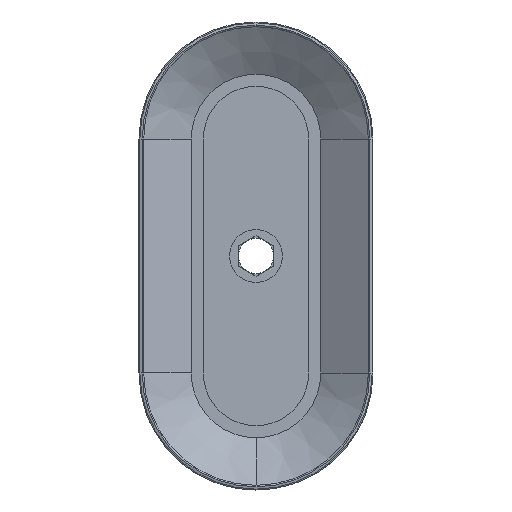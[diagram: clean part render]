
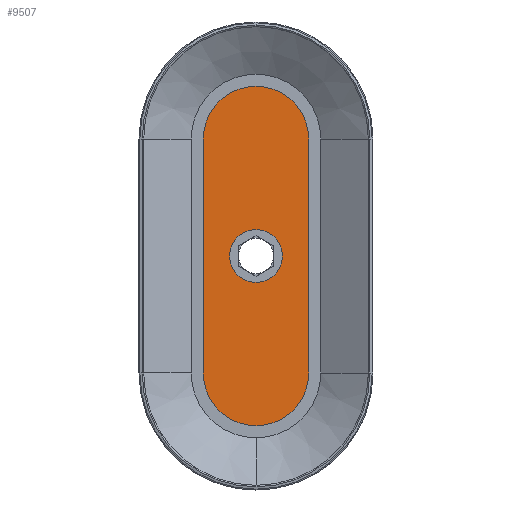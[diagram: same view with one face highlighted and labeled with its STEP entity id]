
A CAD part, front view. The second image highlights one B-rep face of the part: STEP entity #9507.
In plain terms, the highlighted planar face has unit normal (0, -1, 0).
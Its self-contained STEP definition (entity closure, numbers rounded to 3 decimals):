
#45 = CARTESIAN_POINT ( 'NONE',  ( 0., 9., 20. ) ) ;
#212 = DIRECTION ( 'NONE',  ( 0., 1., 0. ) ) ;
#294 = EDGE_CURVE ( 'NONE', #9392, #11352, #6033, .T. ) ;
#431 = CARTESIAN_POINT ( 'NONE',  ( 0., 9., 0. ) ) ;
#575 = AXIS2_PLACEMENT_3D ( 'NONE', #431, #2366, #9141 ) ;
#756 = VERTEX_POINT ( 'NONE', #5009 ) ;
#871 = ORIENTED_EDGE ( 'NONE', *, *, #5842, .T. ) ;
#948 = DIRECTION ( 'NONE',  ( 0., 1., 0. ) ) ;
#1021 = CARTESIAN_POINT ( 'NONE',  ( 4.5, 9., 0. ) ) ;
#1313 = CARTESIAN_POINT ( 'NONE',  ( -9., 9., 20. ) ) ;
#1826 = DIRECTION ( 'NONE',  ( 0., 0., -1. ) ) ;
#1878 = CARTESIAN_POINT ( 'NONE',  ( -9., 9., 20. ) ) ;
#2037 = DIRECTION ( 'NONE',  ( 0., 0., 1. ) ) ;
#2126 = ORIENTED_EDGE ( 'NONE', *, *, #3628, .F. ) ;
#2139 = CIRCLE ( 'NONE', #11871, 4.5 ) ;
#2366 = DIRECTION ( 'NONE',  ( 0., 1., 0. ) ) ;
#2519 = EDGE_CURVE ( 'NONE', #3699, #8704, #8615, .T. ) ;
#2700 = DIRECTION ( 'NONE',  ( 1., 0., 0. ) ) ;
#3628 = EDGE_CURVE ( 'NONE', #4861, #3699, #12464, .T. ) ;
#3689 = CARTESIAN_POINT ( 'NONE',  ( -0.05, 9., 20. ) ) ;
#3699 = VERTEX_POINT ( 'NONE', #1313 ) ;
#3883 = DIRECTION ( 'NONE',  ( 0., 1., 0. ) ) ;
#3900 = DIRECTION ( 'NONE',  ( 0., 1., 0. ) ) ;
#4074 = DIRECTION ( 'NONE',  ( 0., 0., 1. ) ) ;
#4424 = AXIS2_PLACEMENT_3D ( 'NONE', #45, #3900, #10741 ) ;
#4557 = CIRCLE ( 'NONE', #11672, 9. ) ;
#4861 = VERTEX_POINT ( 'NONE', #9486 ) ;
#5009 = CARTESIAN_POINT ( 'NONE',  ( 9., 9., 20. ) ) ;
#5232 = VECTOR ( 'NONE', #1826, 1000. ) ;
#5235 = ORIENTED_EDGE ( 'NONE', *, *, #6676, .F. ) ;
#5408 = PLANE ( 'NONE',  #11554 ) ;
#5538 = CARTESIAN_POINT ( 'NONE',  ( -4.5, 9., 0. ) ) ;
#5765 = CARTESIAN_POINT ( 'NONE',  ( 0., 9., 0. ) ) ;
#5842 = EDGE_CURVE ( 'NONE', #11352, #9392, #2139, .T. ) ;
#6033 = CIRCLE ( 'NONE', #575, 4.5 ) ;
#6578 = EDGE_LOOP ( 'NONE', ( #871, #7074 ) ) ;
#6676 = EDGE_CURVE ( 'NONE', #10163, #4861, #4557, .T. ) ;
#6726 = VECTOR ( 'NONE', #11654, 1000. ) ;
#7074 = ORIENTED_EDGE ( 'NONE', *, *, #294, .T. ) ;
#7086 = EDGE_LOOP ( 'NONE', ( #5235, #7438, #8150, #10006, #2126 ) ) ;
#7438 = ORIENTED_EDGE ( 'NONE', *, *, #11639, .F. ) ;
#8150 = ORIENTED_EDGE ( 'NONE', *, *, #8467, .F. ) ;
#8297 = DIRECTION ( 'NONE',  ( 0., 0., 1. ) ) ;
#8372 = FACE_BOUND ( 'NONE', #6578, .T. ) ;
#8467 = EDGE_CURVE ( 'NONE', #8704, #756, #9876, .T. ) ;
#8615 = CIRCLE ( 'NONE', #12275, 9. ) ;
#8704 = VERTEX_POINT ( 'NONE', #10124 ) ;
#9141 = DIRECTION ( 'NONE',  ( 1., 0., 0. ) ) ;
#9392 = VERTEX_POINT ( 'NONE', #5538 ) ;
#9485 = DIRECTION ( 'NONE',  ( 0., 1., 0. ) ) ;
#9486 = CARTESIAN_POINT ( 'NONE',  ( -9., 9., -20. ) ) ;
#9507 = ADVANCED_FACE ( 'NONE', ( #10342, #8372 ), #5408, .F. ) ;
#9876 = CIRCLE ( 'NONE', #4424, 9. ) ;
#10006 = ORIENTED_EDGE ( 'NONE', *, *, #2519, .F. ) ;
#10124 = CARTESIAN_POINT ( 'NONE',  ( 0., 9., 29. ) ) ;
#10163 = VERTEX_POINT ( 'NONE', #11887 ) ;
#10342 = FACE_OUTER_BOUND ( 'NONE', #7086, .T. ) ;
#10440 = LINE ( 'NONE', #11338, #5232 ) ;
#10741 = DIRECTION ( 'NONE',  ( 0., 0., 1. ) ) ;
#11285 = CARTESIAN_POINT ( 'NONE',  ( 0., 9., -20. ) ) ;
#11338 = CARTESIAN_POINT ( 'NONE',  ( 9., 9., 20. ) ) ;
#11352 = VERTEX_POINT ( 'NONE', #1021 ) ;
#11554 = AXIS2_PLACEMENT_3D ( 'NONE', #3689, #3883, #2037 ) ;
#11639 = EDGE_CURVE ( 'NONE', #756, #10163, #10440, .T. ) ;
#11654 = DIRECTION ( 'NONE',  ( 0., 0., 1. ) ) ;
#11672 = AXIS2_PLACEMENT_3D ( 'NONE', #11285, #9485, #8297 ) ;
#11871 = AXIS2_PLACEMENT_3D ( 'NONE', #5765, #948, #2700 ) ;
#11875 = CARTESIAN_POINT ( 'NONE',  ( 0., 9., 20. ) ) ;
#11887 = CARTESIAN_POINT ( 'NONE',  ( 9., 9., -20. ) ) ;
#12275 = AXIS2_PLACEMENT_3D ( 'NONE', #11875, #212, #4074 ) ;
#12464 = LINE ( 'NONE', #1878, #6726 ) ;
